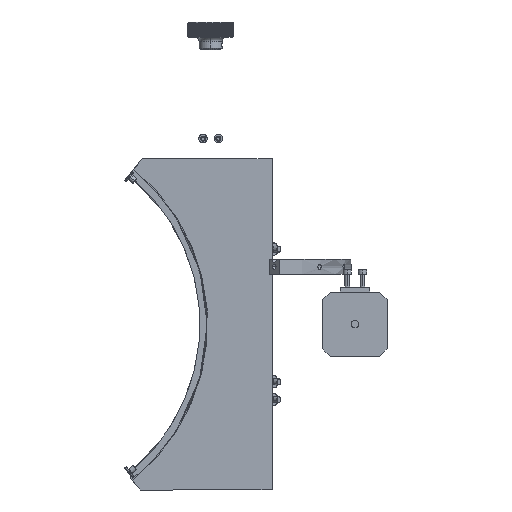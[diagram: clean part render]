
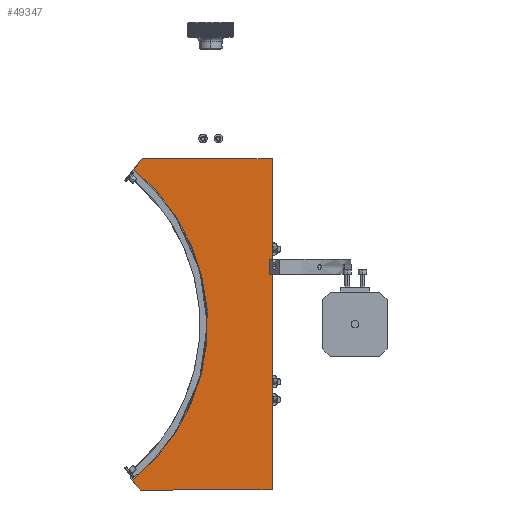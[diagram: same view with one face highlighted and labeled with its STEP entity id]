
A CAD part, left-side view. The second image highlights one B-rep face of the part: STEP entity #49347.
In plain terms, the highlighted planar face has unit normal (-1, 0, 0) as drawn and (0, 0, -1) by its records, which use the part's own axes.
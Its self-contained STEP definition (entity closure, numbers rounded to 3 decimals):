
#1525 = DIRECTION ( 'NONE',  ( 0., 0., 1. ) ) ;
#3278 = DIRECTION ( 'NONE',  ( 0., 1., 0. ) ) ;
#4025 = VECTOR ( 'NONE', #3278, 1000. ) ;
#4236 = LINE ( 'NONE', #23691, #4025 ) ;
#4728 = CARTESIAN_POINT ( 'NONE',  ( 0., 0., 0. ) ) ;
#4819 = CARTESIAN_POINT ( 'NONE',  ( 108., 172., 0. ) ) ;
#8933 = PLANE ( 'NONE',  #12076 ) ;
#9202 = ORIENTED_EDGE ( 'NONE', *, *, #94333, .T. ) ;
#9414 = FACE_OUTER_BOUND ( 'NONE', #33150, .T. ) ;
#10042 = VECTOR ( 'NONE', #21695, 1000. ) ;
#12076 = AXIS2_PLACEMENT_3D ( 'NONE', #61323, #1525, #70703 ) ;
#13321 = VERTEX_POINT ( 'NONE', #18972 ) ;
#13921 = CARTESIAN_POINT ( 'NONE',  ( 0., 0., 0. ) ) ;
#15682 = LINE ( 'NONE', #83426, #32733 ) ;
#18972 = CARTESIAN_POINT ( 'NONE',  ( 0., 0., 0. ) ) ;
#19709 = VERTEX_POINT ( 'NONE', #86326 ) ;
#21695 = DIRECTION ( 'NONE',  ( 0.777, -0.629, 0. ) ) ;
#23591 = EDGE_CURVE ( 'NONE', #96013, #74614, #4236, .T. ) ;
#23691 = CARTESIAN_POINT ( 'NONE',  ( 216., 0., 0. ) ) ;
#32733 = VECTOR ( 'NONE', #68561, 1000. ) ;
#33150 = EDGE_LOOP ( 'NONE', ( #45068, #9202, #47342, #52522, #78762, #83144 ) ) ;
#34325 = CARTESIAN_POINT ( 'NONE',  ( 6.992, 90.162, 0. ) ) ;
#35096 = EDGE_CURVE ( 'NONE', #13321, #96013, #72431, .T. ) ;
#36158 = LINE ( 'NONE', #13921, #71658 ) ;
#39472 = VECTOR ( 'NONE', #70498, 1000. ) ;
#40476 = VERTEX_POINT ( 'NONE', #65630 ) ;
#42840 = DIRECTION ( 'NONE',  ( 0., 0., 1. ) ) ;
#44059 = DIRECTION ( 'NONE',  ( 0., 1., 0. ) ) ;
#44228 = VERTEX_POINT ( 'NONE', #34325 ) ;
#44411 = CARTESIAN_POINT ( 'NONE',  ( 216., 86., 0. ) ) ;
#44426 = LINE ( 'NONE', #53333, #10042 ) ;
#45052 = CARTESIAN_POINT ( 'NONE',  ( 216., 0., 0. ) ) ;
#45068 = ORIENTED_EDGE ( 'NONE', *, *, #75844, .T. ) ;
#47342 = ORIENTED_EDGE ( 'NONE', *, *, #23591, .F. ) ;
#49347 = ADVANCED_FACE ( 'NONE', ( #9414 ), #8933, .F. ) ;
#52522 = ORIENTED_EDGE ( 'NONE', *, *, #35096, .F. ) ;
#53333 = CARTESIAN_POINT ( 'NONE',  ( 127.606, 157.58, 0. ) ) ;
#61323 = CARTESIAN_POINT ( 'NONE',  ( 0., 0., 0. ) ) ;
#65630 = CARTESIAN_POINT ( 'NONE',  ( 209.738, 91.071, 0. ) ) ;
#68561 = DIRECTION ( 'NONE',  ( 0.777, 0.629, 0. ) ) ;
#68990 = EDGE_CURVE ( 'NONE', #13321, #19709, #36158, .T. ) ;
#70498 = DIRECTION ( 'NONE',  ( 1., 0., 0. ) ) ;
#70703 = DIRECTION ( 'NONE',  ( 1., 0., 0. ) ) ;
#71658 = VECTOR ( 'NONE', #44059, 1000. ) ;
#72431 = LINE ( 'NONE', #4728, #39472 ) ;
#74614 = VERTEX_POINT ( 'NONE', #44411 ) ;
#75844 = EDGE_CURVE ( 'NONE', #44228, #40476, #82537, .T. ) ;
#78762 = ORIENTED_EDGE ( 'NONE', *, *, #68990, .T. ) ;
#82537 = CIRCLE ( 'NONE', #84162, 130. ) ;
#83144 = ORIENTED_EDGE ( 'NONE', *, *, #85841, .T. ) ;
#83426 = CARTESIAN_POINT ( 'NONE',  ( -41.327, 51.034, 0. ) ) ;
#84162 = AXIS2_PLACEMENT_3D ( 'NONE', #4819, #42840, #95710 ) ;
#85841 = EDGE_CURVE ( 'NONE', #19709, #44228, #15682, .T. ) ;
#86326 = CARTESIAN_POINT ( 'NONE',  ( 0., 84.5, 0. ) ) ;
#94333 = EDGE_CURVE ( 'NONE', #40476, #74614, #44426, .T. ) ;
#95710 = DIRECTION ( 'NONE',  ( 1., 0., 0. ) ) ;
#96013 = VERTEX_POINT ( 'NONE', #45052 ) ;
